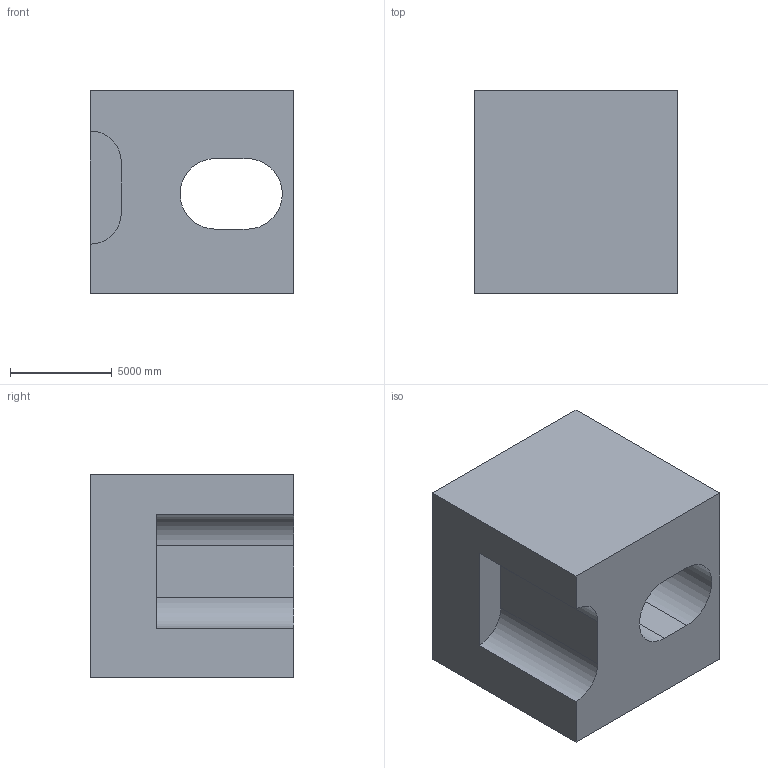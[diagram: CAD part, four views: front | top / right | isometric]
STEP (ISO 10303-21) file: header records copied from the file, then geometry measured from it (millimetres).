
FILE_DESCRIPTION (( 'STEP AP203' ), '1' );
FILE_NAME ('194.STEP', '2022-07-28T13:52:01', ( 'user' ), ( '' ), 'SwSTEP 2.0', 'SolidWorks 2021', '' );
FILE_SCHEMA (( 'CONFIG_CONTROL_DESIGN' ));
Length unit declared in the file: centimetre
Products named in the file (1): 194
Bounding box: 10000 x 10000 x 10000 mm (x, y, z)
Volume: 800972876164 mm3; surface area: 722181774.3 mm2
Topology: 1 solids, 1 shells, 14 faces, 36 edges, 24 vertices
Faces by surface type: plane 10, cylinder 4
Entity records: 509 total; most frequent: CARTESIAN_POINT 75, DIRECTION 74, ORIENTED_EDGE 72, EDGE_CURVE 36, LINE 28, VECTOR 28, VERTEX_POINT 24, AXIS2_PLACEMENT_3D 23
